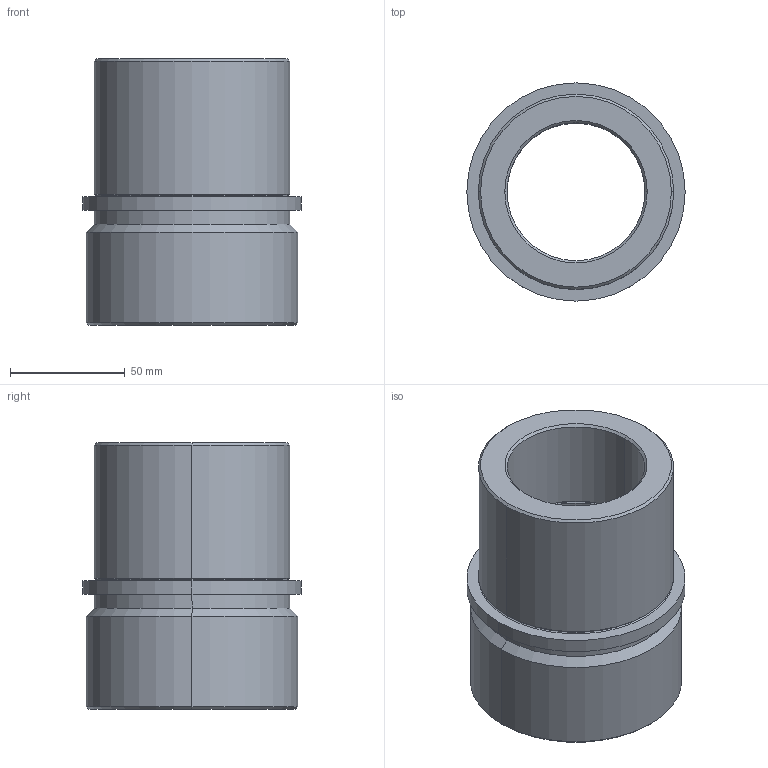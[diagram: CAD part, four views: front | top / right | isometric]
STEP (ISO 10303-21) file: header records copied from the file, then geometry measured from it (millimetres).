
FILE_DESCRIPTION (( 'STEP AP214' ), '1' );
FILE_NAME ('Casquillo SB500-60-116.STEP', '2018-11-27T12:10:28', ( '' ), ( '' ), 'SwSTEP 2.0', 'SolidWorks 2018', '' );
FILE_SCHEMA (( 'AUTOMOTIVE_DESIGN' ));
Length unit declared in the file: millimetre
Products named in the file (1): Casquillo SB500-60-116
Bounding box: 95 x 95 x 116 mm (x, y, z)
Volume: 379222.1 mm3; surface area: 63678.4 mm2
Topology: 1 solids, 1 shells, 40 faces, 80 edges, 44 vertices
Faces by surface type: cylinder 14, torus 12, cone 10, plane 4
Entity records: 1074 total; most frequent: DIRECTION 218, CARTESIAN_POINT 165, ORIENTED_EDGE 160, AXIS2_PLACEMENT_3D 97, EDGE_CURVE 80, CIRCLE 56, EDGE_LOOP 44, VERTEX_POINT 44
